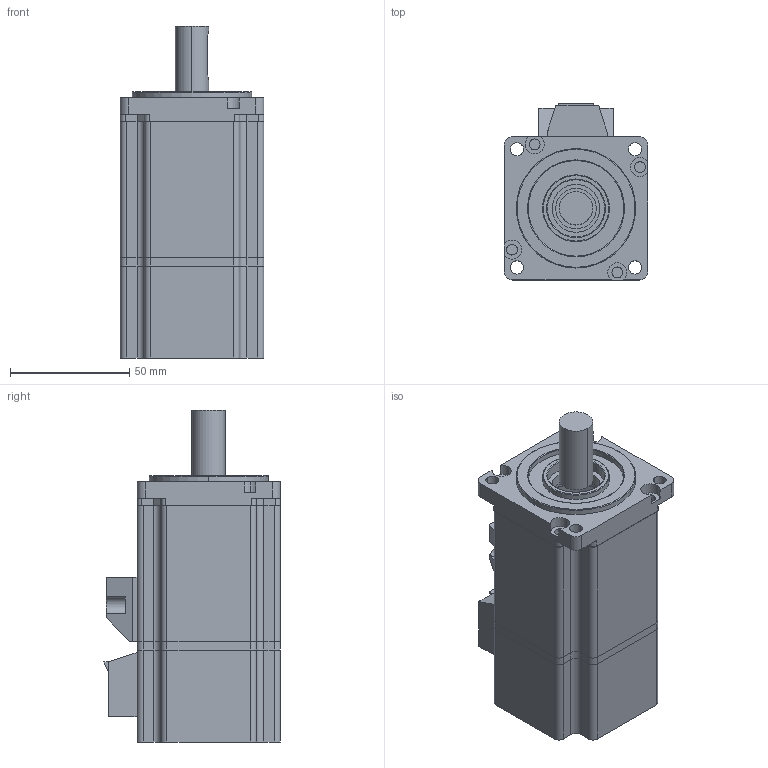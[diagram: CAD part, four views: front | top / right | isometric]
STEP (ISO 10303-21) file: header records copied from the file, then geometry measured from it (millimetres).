
FILE_DESCRIPTION (( 'STEP AP203' ), '1' );
FILE_NAME ('60-00630.STEP', '2020-03-08T12:01:47', ( '' ), ( '' ), 'SwSTEP 2.0', 'SolidWorks 2016', '' );
FILE_SCHEMA (( 'CONFIG_CONTROL_DESIGN' ));
Length unit declared in the file: millimetre
Products named in the file (8): 萇儂裔啣_1; 60-0.6N隅赽; 60粣; 60晤鎢ん裔啣; 60晤鎢ん; 60綴裔; 60-00630; 60ヶ裔
Assembly tree (7 placements, depth 2):
  60-00630
    60-0.6N隅赽
    60ヶ裔
    60綴裔
    60粣
    60晤鎢ん
    60晤鎢ん裔啣
    萇儂裔啣_1
Bounding box: 60 x 74 x 139 mm (x, y, z)
Volume: 231147.3 mm3; surface area: 70052.8 mm2
Topology: 7 solids, 7 shells, 279 faces, 728 edges, 480 vertices
Faces by surface type: cylinder 153, plane 114, torus 8, cone 2, bspline 2
Entity records: 9688 total; most frequent: DIRECTION 1618, CARTESIAN_POINT 1563, ORIENTED_EDGE 1456, EDGE_CURVE 728, AXIS2_PLACEMENT_3D 609, VERTEX_POINT 480, VECTOR 400, LINE 400
